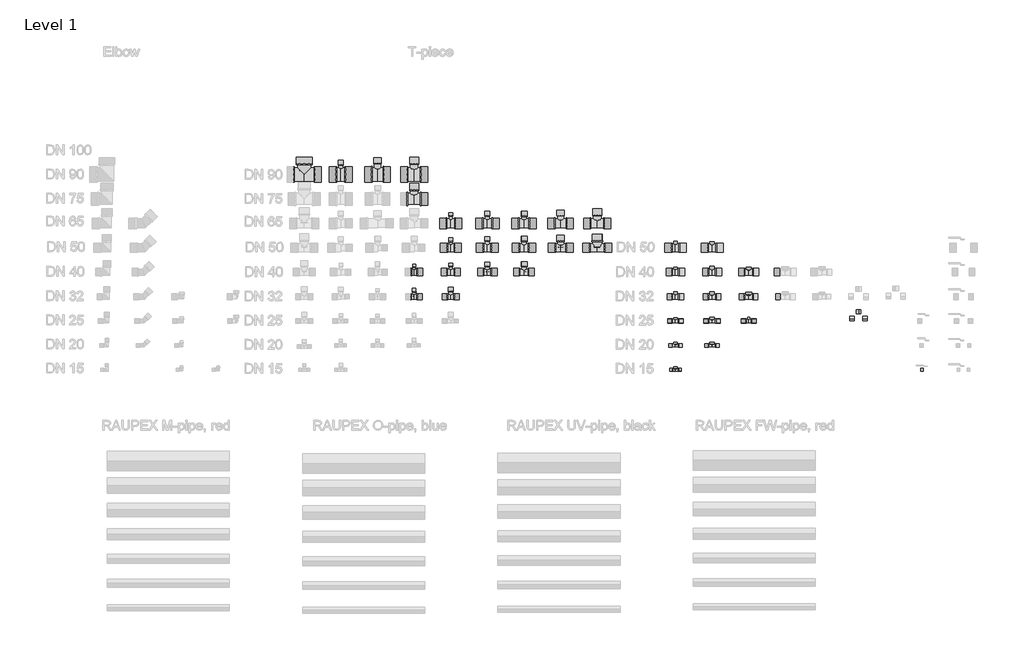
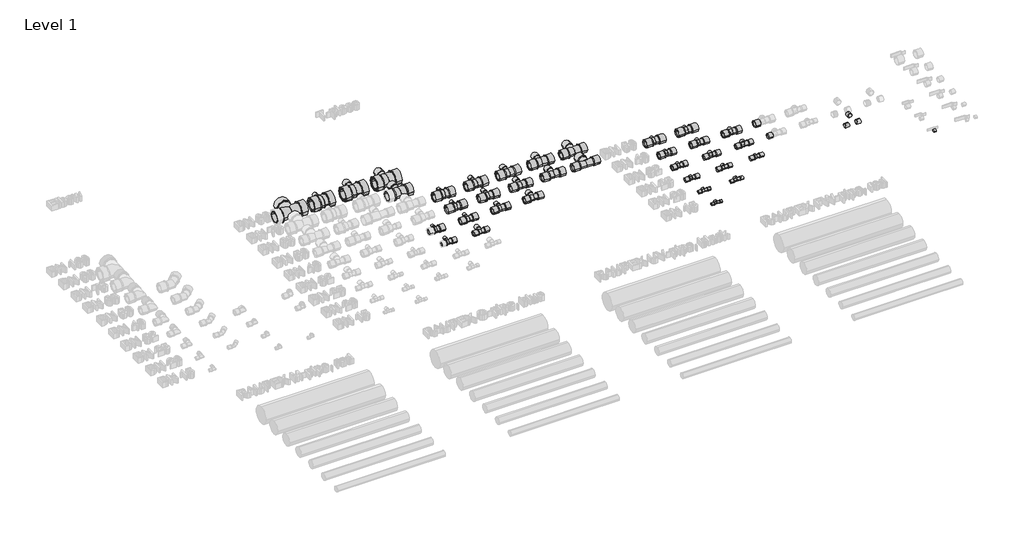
# One storey, part 5 of 15: 128 pipe fittings.
"""IFC4 building model written with IfcOpenShell, lengths in millimetres."""

from ifc_helpers import new_model, si_unit, origin, place, context, project, spatial, transform, mapped, element, save
from components import sleeve_lx_11_2e170aa1, sleeve_lx_11_3fcb8560, sleeve_lx_11_f19e3dbf, sleeve_lx_11_b9b419b6, sleeve_lx_11_e5eab1a7, sleeve_lx_11_ddfe2885, sleeve_lx_11_4a8bb2b2, sleeve_lx_11_a113959b, sleeve_lx_11_864eb6fe, sleeve_lx_11_c8be5d8f, sleeve_lx_11_6951dc15, sleeve_lx_11_77a95bf2, sleeve_rx_11_7b1edd19, sleeve_rx_11_d7843ee1, sleeve_rx_11_d7b6a074, t_piece_sdr11_lx_8dcbc21c, t_piece_sdr11_lx_149c8f26, t_piece_sdr11_lx_bd781c14, t_piece_sdr11_lx_aa92336d, t_piece_sdr11_lx_82b26c80, t_piece_sdr11_lx_b870d911, t_piece_sdr11_lx_8f242d45, t_piece_sdr11_lx_a8b36c13, t_piece_sdr11_lx_51ccf36a, t_piece_sdr11_lx_7730ed08, t_piece_sdr11_lx_t_piece_sdr11_rx_ce744061, t_piece_sdr11_lx_t_piece_sdr11_rx_5d5b0444, t_piece_sdr11_lx_t_piece_sdr11_rx_ea6c35c2, t_piece_sdr11_lx_t_piece_sdr11_rx_5838618a, t_piece_sdr11_lx_t_piece_sdr11_rx_05f4d052, t_piece_sdr11_lx_t_piece_sdr11_rx_636d46ae, t_piece_sdr11_lx_t_piece_sdr11_rx_10ffb44c, t_piece_sdr11_lx_t_piece_sdr11_rx_2cea22d0, t_piece_sdr11_lx_t_piece_sdr11_rx_bf9e8c16, t_piece_sdr11_lx_t_piece_sdr11_rx_f182f6ed, t_piece_sdr11_lx_t_piece_sdr11_rx_3943f51e, t_piece_sdr11_internal_thread_lx_8e1e4240, t_piece_sdr11_internal_thread_lx_d718ae2c, t_piece_sdr11_internal_thread_lx_568c0ff7, t_piece_sdr11_internal_thread_lx_c276f615, t_piece_sdr11_internal_thread_lx_835d7b5e, t_piece_sdr11_internal_thread_lx_253700b9, t_piece_sdr11_internal_thread_lx_99c0b33e, t_piece_sdr11_internal_thread_lx_c3680e9d, t_piece_sdr11_internal_thread_lx_bc42c6c6, t_piece_sdr11_internal_thread_lx_2177e229, t_piece_sdr11_internal_thread_lx_ff95d487, t_piece_sdr11_internal_thread_lx_0327bc4c, t_piece_sdr11_internal_thread_lx_a8ee94a1, t_piece_taper_sdr11_lx_t_piece_taper_sdr11_17872884

model = new_model("IFC4")

# Units and contexts
model_context = context("Model", 3, world=origin())
ifc_project = project(units=[si_unit("LENGTHUNIT", "METRE", prefix="MILLI")], contexts=[model_context])

# Site, building, storey
site = spatial("IfcSite", under=ifc_project)
building = spatial("IfcBuilding", under=site)
storey = spatial("IfcBuildingStorey", under=building, Name="Level 1", Elevation=0.0)

# Pipe fittings
placement = place(None, origin())
sleeve_lx_11_shape = sleeve_lx_11_2e170aa1(model_context)
element("IfcPipeFitting", 1, ObjectType="Sleeve : LX 11", at=placement, inside=storey, context=model_context, shape_type="MappedRepresentation", body=[
    mapped(sleeve_lx_11_shape, transform((19102.2141419, 840.5489138, 0.0), x_axis=(1.0, 0.0, 0.0), y_axis=(0.0, 1.0, 0.0), z_axis=(0.0, 0.0, 1.0))),
])
element("IfcPipeFitting", 2, ObjectType="Sleeve : LX 11", at=placement, inside=storey, context=model_context, shape_type="MappedRepresentation", body=[
    mapped(sleeve_lx_11_shape, transform((19398.9141419, 840.5489138, 0.0), x_axis=(1.0, 0.0, 0.0), y_axis=(0.0, 1.0, 0.0), z_axis=(0.0, 0.0, 1.0))),
])
element("IfcPipeFitting", 3, ObjectType="Sleeve : LX 11", at=placement, inside=storey, context=model_context, shape_type="MappedRepresentation", body=[
    mapped(sleeve_lx_11_shape, transform((17326.2141419, 1082.5489138, 0.0), x_axis=(0.0, 1.0, 0.0), y_axis=(-1.0, 0.0, 0.0), z_axis=(0.0, 0.0, 1.0))),
])
element("IfcPipeFitting", 4, ObjectType="Sleeve : LX 11", at=placement, inside=storey, context=model_context, shape_type="MappedRepresentation", body=[
    mapped(sleeve_lx_11_shape, transform((17626.2141419, 1287.3489138, 0.0), x_axis=(0.0, 1.0, 0.0), y_axis=(-1.0, 0.0, 0.0), z_axis=(0.0, 0.0, 1.0))),
])
element("IfcPipeFitting", 5, ObjectType="Sleeve : LX 11", at=placement, inside=storey, context=model_context, shape_type="MappedRepresentation", body=[
    mapped(sleeve_lx_11_shape, transform((17626.2141419, 1497.5489138, 0.0), x_axis=(0.0, 1.0, 0.0), y_axis=(-1.0, 0.0, 0.0), z_axis=(0.0, 0.0, 1.0))),
])
element("IfcPipeFitting", 6, ObjectType="Sleeve : LX 11", at=placement, inside=storey, context=model_context, shape_type="MappedRepresentation", body=[
    mapped(sleeve_lx_11_shape, transform((17626.2141419, 1703.3489138, 0.0), x_axis=(0.0, 1.0, 0.0), y_axis=(-1.0, 0.0, 0.0), z_axis=(0.0, 0.0, 1.0))),
])
element("IfcPipeFitting", 7, ObjectType="Sleeve : LX 11", at=placement, inside=storey, context=model_context, shape_type="MappedRepresentation", body=[
    mapped(sleeve_lx_11_shape, transform((16426.2141419, 2122.0489138, 0.0), x_axis=(0.0, 1.0, 0.0), y_axis=(-1.0, 0.0, 0.0), z_axis=(0.0, 0.0, 1.0))),
])
element("IfcPipeFitting", 8, ObjectType="Sleeve : LX 11", at=placement, inside=storey, context=model_context, shape_type="MappedRepresentation", body=[
    mapped(sleeve_lx_11_shape, transform((19705.2141419, 840.5489138, 0.0), x_axis=(1.0, 0.0, 0.0), y_axis=(0.0, 1.0, 0.0), z_axis=(0.0, 0.0, 1.0))),
])
element("IfcPipeFitting", 9, ObjectType="Sleeve : LX 11", at=placement, inside=storey, context=model_context, shape_type="MappedRepresentation", body=[
    mapped(sleeve_lx_11_shape, transform((19792.2141419, 840.5489138, 0.0), x_axis=(1.0, 0.0, 0.0), y_axis=(0.0, 1.0, 0.0), z_axis=(0.0, 0.0, 1.0))),
])
element("IfcPipeFitting", 10, ObjectType="Sleeve : LX 11", at=placement, inside=storey, context=model_context, shape_type="MappedRepresentation", body=[
    mapped(sleeve_lx_11_shape, transform((20595.1654108, 860.5489138, 0.0), x_axis=(1.0, 0.0, 0.0), y_axis=(0.0, 0.0, 1.0), z_axis=(0.0, -1.0, 0.0))),
])
element("IfcPipeFitting", 11, ObjectType="Sleeve : LX 11", at=placement, inside=storey, context=model_context, shape_type="MappedRepresentation", body=[
    mapped(sleeve_lx_11_shape, transform((20665.9654108, 933.5489138, 50.0), x_axis=(0.0, -1.0, 0.0), y_axis=(0.0, 0.0, -1.0), z_axis=(1.0, 0.0, 0.0))),
])
sleeve_lx_11_2_shape = sleeve_lx_11_3fcb8560(model_context)
element("IfcPipeFitting", 12, ObjectType="Sleeve : LX 11", at=placement, inside=storey, context=model_context, shape_type="MappedRepresentation", body=[
    mapped(sleeve_lx_11_2_shape, transform((21175.6274404, 440.5489138, 0.0), x_axis=(1.0, 0.0, 0.0), y_axis=(0.0, 1.0, 0.0), z_axis=(0.0, 0.0, 1.0))),
])
element("IfcPipeFitting", 13, ObjectType="Sleeve : LX 11", at=placement, inside=storey, context=model_context, shape_type="MappedRepresentation", body=[
    mapped(sleeve_lx_11_2_shape, transform((19118.2141419, 440.5489138, 0.0), x_axis=(1.0, 0.0, 0.0), y_axis=(0.0, 1.0, 0.0), z_axis=(0.0, 0.0, 1.0))),
])
element("IfcPipeFitting", 14, ObjectType="Sleeve : LX 11", at=placement, inside=storey, context=model_context, shape_type="MappedRepresentation", body=[
    mapped(sleeve_lx_11_2_shape, transform((17026.2141419, 1286.3489138, 0.0), x_axis=(0.0, 1.0, 0.0), y_axis=(-1.0, 0.0, 0.0), z_axis=(0.0, 0.0, 1.0))),
])
sleeve_lx_11_3_shape = sleeve_lx_11_f19e3dbf(model_context)
element("IfcPipeFitting", 15, ObjectType="Sleeve : LX 11", at=placement, inside=storey, context=model_context, shape_type="MappedRepresentation", body=[
    mapped(sleeve_lx_11_3_shape, transform((19111.2141419, 640.5489138, 0.0), x_axis=(1.0, 0.0, 0.0), y_axis=(0.0, 1.0, 0.0), z_axis=(0.0, 0.0, 1.0))),
])
element("IfcPipeFitting", 16, ObjectType="Sleeve : LX 11", at=placement, inside=storey, context=model_context, shape_type="MappedRepresentation", body=[
    mapped(sleeve_lx_11_3_shape, transform((19407.9141419, 640.5489138, 0.0), x_axis=(1.0, 0.0, 0.0), y_axis=(0.0, 1.0, 0.0), z_axis=(0.0, 0.0, 1.0))),
])
element("IfcPipeFitting", 17, ObjectType="Sleeve : LX 11", at=placement, inside=storey, context=model_context, shape_type="MappedRepresentation", body=[
    mapped(sleeve_lx_11_3_shape, transform((17026.2141419, 1081.0489138, 0.0), x_axis=(0.0, 1.0, 0.0), y_axis=(-1.0, 0.0, 0.0), z_axis=(0.0, 0.0, 1.0))),
])
element("IfcPipeFitting", 18, ObjectType="Sleeve : LX 11", at=placement, inside=storey, context=model_context, shape_type="MappedRepresentation", body=[
    mapped(sleeve_lx_11_3_shape, transform((17326.2141419, 1287.8489138, 0.0), x_axis=(0.0, 1.0, 0.0), y_axis=(-1.0, 0.0, 0.0), z_axis=(0.0, 0.0, 1.0))),
])
element("IfcPipeFitting", 19, ObjectType="Sleeve : LX 11", at=placement, inside=storey, context=model_context, shape_type="MappedRepresentation", body=[
    mapped(sleeve_lx_11_3_shape, transform((17326.2141419, 1493.7489138, 0.0), x_axis=(0.0, 1.0, 0.0), y_axis=(-1.0, 0.0, 0.0), z_axis=(0.0, 0.0, 1.0))),
])
element("IfcPipeFitting", 20, ObjectType="Sleeve : LX 11", at=placement, inside=storey, context=model_context, shape_type="MappedRepresentation", body=[
    mapped(sleeve_lx_11_3_shape, transform((17326.2141419, 1701.5489138, 0.0), x_axis=(0.0, 1.0, 0.0), y_axis=(-1.0, 0.0, 0.0), z_axis=(0.0, 0.0, 1.0))),
])
sleeve_lx_11_4_shape = sleeve_lx_11_b9b419b6(model_context)
element("IfcPipeFitting", 21, ObjectType="Sleeve : LX 11", at=placement, inside=storey, context=model_context, shape_type="MappedRepresentation", body=[
    mapped(sleeve_lx_11_4_shape, transform((19098.2141419, 1040.5489138, 0.0), x_axis=(1.0, 0.0, 0.0), y_axis=(0.0, 1.0, 0.0), z_axis=(0.0, 0.0, 1.0))),
])
element("IfcPipeFitting", 22, ObjectType="Sleeve : LX 11", at=placement, inside=storey, context=model_context, shape_type="MappedRepresentation", body=[
    mapped(sleeve_lx_11_4_shape, transform((19393.8141419, 1040.5489138, 0.0), x_axis=(1.0, 0.0, 0.0), y_axis=(0.0, 1.0, 0.0), z_axis=(0.0, 0.0, 1.0))),
])
element("IfcPipeFitting", 23, ObjectType="Sleeve : LX 11", at=placement, inside=storey, context=model_context, shape_type="MappedRepresentation", body=[
    mapped(sleeve_lx_11_4_shape, transform((19690.2141419, 1040.5489138, 0.0), x_axis=(1.0, 0.0, 0.0), y_axis=(0.0, 1.0, 0.0), z_axis=(0.0, 0.0, 1.0))),
])
element("IfcPipeFitting", 24, ObjectType="Sleeve : LX 11", at=placement, inside=storey, context=model_context, shape_type="MappedRepresentation", body=[
    mapped(sleeve_lx_11_4_shape, transform((19986.9141419, 1040.5489138, 0.0), x_axis=(1.0, 0.0, 0.0), y_axis=(0.0, 1.0, 0.0), z_axis=(0.0, 0.0, 1.0))),
])
element("IfcPipeFitting", 25, ObjectType="Sleeve : LX 11", at=placement, inside=storey, context=model_context, shape_type="MappedRepresentation", body=[
    mapped(sleeve_lx_11_4_shape, transform((17056.0141419, 1040.5489138, 0.0), x_axis=(1.0, 0.0, 0.0), y_axis=(0.0, 1.0, 0.0), z_axis=(0.0, 0.0, 1.0))),
])
element("IfcPipeFitting", 26, ObjectType="Sleeve : LX 11", at=placement, inside=storey, context=model_context, shape_type="MappedRepresentation", body=[
    mapped(sleeve_lx_11_4_shape, transform((17257.4141419, 1040.5489138, 0.0), x_axis=(1.0, 0.0, 0.0), y_axis=(0.0, 1.0, 0.0), z_axis=(0.0, 0.0, 1.0))),
])
element("IfcPipeFitting", 27, ObjectType="Sleeve : LX 11", at=placement, inside=storey, context=model_context, shape_type="MappedRepresentation", body=[
    mapped(sleeve_lx_11_4_shape, transform((17358.0141419, 1040.5489138, 0.0), x_axis=(1.0, 0.0, 0.0), y_axis=(0.0, 1.0, 0.0), z_axis=(0.0, 0.0, 1.0))),
])
element("IfcPipeFitting", 28, ObjectType="Sleeve : LX 11", at=placement, inside=storey, context=model_context, shape_type="MappedRepresentation", body=[
    mapped(sleeve_lx_11_4_shape, transform((17926.2141419, 1289.5489138, 0.0), x_axis=(0.0, 1.0, 0.0), y_axis=(-1.0, 0.0, 0.0), z_axis=(0.0, 0.0, 1.0))),
])
element("IfcPipeFitting", 29, ObjectType="Sleeve : LX 11", at=placement, inside=storey, context=model_context, shape_type="MappedRepresentation", body=[
    mapped(sleeve_lx_11_4_shape, transform((17926.2141419, 1497.0489138, 0.0), x_axis=(0.0, 1.0, 0.0), y_axis=(-1.0, 0.0, 0.0), z_axis=(0.0, 0.0, 1.0))),
])
element("IfcPipeFitting", 30, ObjectType="Sleeve : LX 11", at=placement, inside=storey, context=model_context, shape_type="MappedRepresentation", body=[
    mapped(sleeve_lx_11_4_shape, transform((17926.2141419, 1702.9489138, 0.0), x_axis=(0.0, 1.0, 0.0), y_axis=(-1.0, 0.0, 0.0), z_axis=(0.0, 0.0, 1.0))),
])
sleeve_lx_11_5_shape = sleeve_lx_11_e5eab1a7(model_context)
element("IfcPipeFitting", 31, ObjectType="Sleeve : LX 11", at=placement, inside=storey, context=model_context, shape_type="MappedRepresentation", body=[
    mapped(sleeve_lx_11_5_shape, transform((19091.2141419, 1240.5489138, 0.0), x_axis=(1.0, 0.0, 0.0), y_axis=(0.0, 1.0, 0.0), z_axis=(0.0, 0.0, 1.0))),
])
element("IfcPipeFitting", 32, ObjectType="Sleeve : LX 11", at=placement, inside=storey, context=model_context, shape_type="MappedRepresentation", body=[
    mapped(sleeve_lx_11_5_shape, transform((19387.9141419, 1240.5489138, 0.0), x_axis=(1.0, 0.0, 0.0), y_axis=(0.0, 1.0, 0.0), z_axis=(0.0, 0.0, 1.0))),
])
element("IfcPipeFitting", 33, ObjectType="Sleeve : LX 11", at=placement, inside=storey, context=model_context, shape_type="MappedRepresentation", body=[
    mapped(sleeve_lx_11_5_shape, transform((19684.4141419, 1240.5489138, 0.0), x_axis=(1.0, 0.0, 0.0), y_axis=(0.0, 1.0, 0.0), z_axis=(0.0, 0.0, 1.0))),
])
element("IfcPipeFitting", 34, ObjectType="Sleeve : LX 11", at=placement, inside=storey, context=model_context, shape_type="MappedRepresentation", body=[
    mapped(sleeve_lx_11_5_shape, transform((19976.7141419, 1240.5489138, 0.0), x_axis=(1.0, 0.0, 0.0), y_axis=(0.0, 1.0, 0.0), z_axis=(0.0, 0.0, 1.0))),
])
element("IfcPipeFitting", 35, ObjectType="Sleeve : LX 11", at=placement, inside=storey, context=model_context, shape_type="MappedRepresentation", body=[
    mapped(sleeve_lx_11_5_shape, transform((17054.0141419, 1240.5489138, 0.0), x_axis=(1.0, 0.0, 0.0), y_axis=(0.0, 1.0, 0.0), z_axis=(0.0, 0.0, 1.0))),
])
element("IfcPipeFitting", 36, ObjectType="Sleeve : LX 11", at=placement, inside=storey, context=model_context, shape_type="MappedRepresentation", body=[
    mapped(sleeve_lx_11_5_shape, transform((17248.8141419, 1240.5489138, 0.0), x_axis=(1.0, 0.0, 0.0), y_axis=(0.0, 1.0, 0.0), z_axis=(0.0, 0.0, 1.0))),
])
element("IfcPipeFitting", 37, ObjectType="Sleeve : LX 11", at=placement, inside=storey, context=model_context, shape_type="MappedRepresentation", body=[
    mapped(sleeve_lx_11_5_shape, transform((17359.6141419, 1240.5489138, 0.0), x_axis=(1.0, 0.0, 0.0), y_axis=(0.0, 1.0, 0.0), z_axis=(0.0, 0.0, 1.0))),
])
element("IfcPipeFitting", 38, ObjectType="Sleeve : LX 11", at=placement, inside=storey, context=model_context, shape_type="MappedRepresentation", body=[
    mapped(sleeve_lx_11_5_shape, transform((17547.0141419, 1240.5489138, 0.0), x_axis=(1.0, 0.0, 0.0), y_axis=(0.0, 1.0, 0.0), z_axis=(0.0, 0.0, 1.0))),
])
element("IfcPipeFitting", 39, ObjectType="Sleeve : LX 11", at=placement, inside=storey, context=model_context, shape_type="MappedRepresentation", body=[
    mapped(sleeve_lx_11_5_shape, transform((17661.4141419, 1240.5489138, 0.0), x_axis=(1.0, 0.0, 0.0), y_axis=(0.0, 1.0, 0.0), z_axis=(0.0, 0.0, 1.0))),
])
element("IfcPipeFitting", 40, ObjectType="Sleeve : LX 11", at=placement, inside=storey, context=model_context, shape_type="MappedRepresentation", body=[
    mapped(sleeve_lx_11_5_shape, transform((17842.4141419, 1240.5489138, 0.0), x_axis=(1.0, 0.0, 0.0), y_axis=(0.0, 1.0, 0.0), z_axis=(0.0, 0.0, 1.0))),
])
element("IfcPipeFitting", 41, ObjectType="Sleeve : LX 11", at=placement, inside=storey, context=model_context, shape_type="MappedRepresentation", body=[
    mapped(sleeve_lx_11_5_shape, transform((17966.0141419, 1240.5489138, 0.0), x_axis=(1.0, 0.0, 0.0), y_axis=(0.0, 1.0, 0.0), z_axis=(0.0, 0.0, 1.0))),
])
element("IfcPipeFitting", 42, ObjectType="Sleeve : LX 11", at=placement, inside=storey, context=model_context, shape_type="MappedRepresentation", body=[
    mapped(sleeve_lx_11_5_shape, transform((18226.2141419, 1497.0489138, 0.0), x_axis=(0.0, 1.0, 0.0), y_axis=(-1.0, 0.0, 0.0), z_axis=(0.0, 0.0, 1.0))),
])
element("IfcPipeFitting", 43, ObjectType="Sleeve : LX 11", at=placement, inside=storey, context=model_context, shape_type="MappedRepresentation", body=[
    mapped(sleeve_lx_11_5_shape, transform((18226.2141419, 1704.5489138, 0.0), x_axis=(0.0, 1.0, 0.0), y_axis=(-1.0, 0.0, 0.0), z_axis=(0.0, 0.0, 1.0))),
])
element("IfcPipeFitting", 44, ObjectType="Sleeve : LX 11", at=placement, inside=storey, context=model_context, shape_type="MappedRepresentation", body=[
    mapped(sleeve_lx_11_5_shape, transform((16726.2141419, 2134.0489138, 0.0), x_axis=(0.0, 1.0, 0.0), y_axis=(-1.0, 0.0, 0.0), z_axis=(0.0, 0.0, 1.0))),
])
sleeve_lx_11_6_shape = sleeve_lx_11_ddfe2885(model_context)
element("IfcPipeFitting", 45, ObjectType="Sleeve : LX 11", at=placement, inside=storey, context=model_context, shape_type="MappedRepresentation", body=[
    mapped(sleeve_lx_11_6_shape, transform((19078.7141419, 1440.5489138, 0.0), x_axis=(1.0, 0.0, 0.0), y_axis=(0.0, 1.0, 0.0), z_axis=(0.0, 0.0, 1.0))),
])
element("IfcPipeFitting", 46, ObjectType="Sleeve : LX 11", at=placement, inside=storey, context=model_context, shape_type="MappedRepresentation", body=[
    mapped(sleeve_lx_11_6_shape, transform((19376.4141419, 1440.5489138, 0.0), x_axis=(1.0, 0.0, 0.0), y_axis=(0.0, 1.0, 0.0), z_axis=(0.0, 0.0, 1.0))),
])
element("IfcPipeFitting", 47, ObjectType="Sleeve : LX 11", at=placement, inside=storey, context=model_context, shape_type="MappedRepresentation", body=[
    mapped(sleeve_lx_11_6_shape, transform((17238.9141419, 1440.5489138, 0.0), x_axis=(1.0, 0.0, 0.0), y_axis=(0.0, 1.0, 0.0), z_axis=(0.0, 0.0, 1.0))),
])
element("IfcPipeFitting", 48, ObjectType="Sleeve : LX 11", at=placement, inside=storey, context=model_context, shape_type="MappedRepresentation", body=[
    mapped(sleeve_lx_11_6_shape, transform((17360.5141419, 1440.5489138, 0.0), x_axis=(1.0, 0.0, 0.0), y_axis=(0.0, 1.0, 0.0), z_axis=(0.0, 0.0, 1.0))),
])
element("IfcPipeFitting", 49, ObjectType="Sleeve : LX 11", at=placement, inside=storey, context=model_context, shape_type="MappedRepresentation", body=[
    mapped(sleeve_lx_11_6_shape, transform((17536.4141419, 1440.5489138, 0.0), x_axis=(1.0, 0.0, 0.0), y_axis=(0.0, 1.0, 0.0), z_axis=(0.0, 0.0, 1.0))),
])
element("IfcPipeFitting", 50, ObjectType="Sleeve : LX 11", at=placement, inside=storey, context=model_context, shape_type="MappedRepresentation", body=[
    mapped(sleeve_lx_11_6_shape, transform((17663.0141419, 1440.5489138, 0.0), x_axis=(1.0, 0.0, 0.0), y_axis=(0.0, 1.0, 0.0), z_axis=(0.0, 0.0, 1.0))),
])
element("IfcPipeFitting", 51, ObjectType="Sleeve : LX 11", at=placement, inside=storey, context=model_context, shape_type="MappedRepresentation", body=[
    mapped(sleeve_lx_11_6_shape, transform((17829.9141419, 1440.5489138, 0.0), x_axis=(1.0, 0.0, 0.0), y_axis=(0.0, 1.0, 0.0), z_axis=(0.0, 0.0, 1.0))),
])
element("IfcPipeFitting", 52, ObjectType="Sleeve : LX 11", at=placement, inside=storey, context=model_context, shape_type="MappedRepresentation", body=[
    mapped(sleeve_lx_11_6_shape, transform((17969.5141419, 1440.5489138, 0.0), x_axis=(1.0, 0.0, 0.0), y_axis=(0.0, 1.0, 0.0), z_axis=(0.0, 0.0, 1.0))),
])
element("IfcPipeFitting", 53, ObjectType="Sleeve : LX 11", at=placement, inside=storey, context=model_context, shape_type="MappedRepresentation", body=[
    mapped(sleeve_lx_11_6_shape, transform((18123.9141419, 1440.5489138, 0.0), x_axis=(1.0, 0.0, 0.0), y_axis=(0.0, 1.0, 0.0), z_axis=(0.0, 0.0, 1.0))),
])
element("IfcPipeFitting", 54, ObjectType="Sleeve : LX 11", at=placement, inside=storey, context=model_context, shape_type="MappedRepresentation", body=[
    mapped(sleeve_lx_11_6_shape, transform((18275.5141419, 1440.5489138, 0.0), x_axis=(1.0, 0.0, 0.0), y_axis=(0.0, 1.0, 0.0), z_axis=(0.0, 0.0, 1.0))),
])
element("IfcPipeFitting", 55, ObjectType="Sleeve : LX 11", at=placement, inside=storey, context=model_context, shape_type="MappedRepresentation", body=[
    mapped(sleeve_lx_11_6_shape, transform((18526.2141419, 1707.0489138, 0.0), x_axis=(0.0, 1.0, 0.0), y_axis=(-1.0, 0.0, 0.0), z_axis=(0.0, 0.0, 1.0))),
])
element("IfcPipeFitting", 56, ObjectType="Sleeve : LX 11", at=placement, inside=storey, context=model_context, shape_type="MappedRepresentation", body=[
    mapped(sleeve_lx_11_6_shape, transform((17026.2141419, 1915.6489138, 0.0), x_axis=(0.0, 1.0, 0.0), y_axis=(-1.0, 0.0, 0.0), z_axis=(0.0, 0.0, 1.0))),
])
element("IfcPipeFitting", 57, ObjectType="Sleeve : LX 11", at=placement, inside=storey, context=model_context, shape_type="MappedRepresentation", body=[
    mapped(sleeve_lx_11_6_shape, transform((17026.2141419, 2126.6489138, 0.0), x_axis=(0.0, 1.0, 0.0), y_axis=(-1.0, 0.0, 0.0), z_axis=(0.0, 0.0, 1.0))),
])
element("IfcPipeFitting", 58, ObjectType="Sleeve : LX 11", at=placement, inside=storey, context=model_context, shape_type="MappedRepresentation", body=[
    mapped(sleeve_lx_11_6_shape, transform((18406.2141419, 1440.5489138, 0.0), x_axis=(1.0, 0.0, 0.0), y_axis=(0.0, 1.0, 0.0), z_axis=(0.0, 0.0, 1.0))),
])
element("IfcPipeFitting", 59, ObjectType="Sleeve : LX 11", at=placement, inside=storey, context=model_context, shape_type="MappedRepresentation", body=[
    mapped(sleeve_lx_11_6_shape, transform((18593.2141419, 1440.5489138, 0.0), x_axis=(1.0, 0.0, 0.0), y_axis=(0.0, 1.0, 0.0), z_axis=(0.0, 0.0, 1.0))),
])
sleeve_lx_11_7_shape = sleeve_lx_11_4a8bb2b2(model_context)
element("IfcPipeFitting", 60, ObjectType="Sleeve : LX 11", at=placement, inside=storey, context=model_context, shape_type="MappedRepresentation", body=[
    mapped(sleeve_lx_11_7_shape, transform((19230.2141419, 840.5489138, 0.0), x_axis=(-1.0, 0.0, 0.0), y_axis=(0.0, -1.0, 0.0), z_axis=(0.0, 0.0, 1.0))),
])
element("IfcPipeFitting", 61, ObjectType="Sleeve : LX 11", at=placement, inside=storey, context=model_context, shape_type="MappedRepresentation", body=[
    mapped(sleeve_lx_11_7_shape, transform((19533.5141419, 840.5489138, 0.0), x_axis=(-1.0, 0.0, 0.0), y_axis=(0.0, -1.0, 0.0), z_axis=(0.0, 0.0, 1.0))),
])
element("IfcPipeFitting", 62, ObjectType="Sleeve : LX 11", at=placement, inside=storey, context=model_context, shape_type="MappedRepresentation", body=[
    mapped(sleeve_lx_11_7_shape, transform((20736.7654108, 860.5489138, 0.0), x_axis=(-1.0, 0.0, 0.0), y_axis=(0.0, 0.0, -1.0), z_axis=(0.0, -1.0, 0.0))),
])
sleeve_lx_11_8_shape = sleeve_lx_11_a113959b(model_context)
element("IfcPipeFitting", 63, ObjectType="Sleeve : LX 11", at=placement, inside=storey, context=model_context, shape_type="MappedRepresentation", body=[
    mapped(sleeve_lx_11_8_shape, transform((19234.2141419, 1040.5489138, 0.0), x_axis=(-1.0, 0.0, 0.0), y_axis=(0.0, -1.0, 0.0), z_axis=(0.0, 0.0, 1.0))),
])
element("IfcPipeFitting", 64, ObjectType="Sleeve : LX 11", at=placement, inside=storey, context=model_context, shape_type="MappedRepresentation", body=[
    mapped(sleeve_lx_11_8_shape, transform((19538.6141419, 1040.5489138, 0.0), x_axis=(-1.0, 0.0, 0.0), y_axis=(0.0, -1.0, 0.0), z_axis=(0.0, 0.0, 1.0))),
])
element("IfcPipeFitting", 65, ObjectType="Sleeve : LX 11", at=placement, inside=storey, context=model_context, shape_type="MappedRepresentation", body=[
    mapped(sleeve_lx_11_8_shape, transform((19842.2141419, 1040.5489138, 0.0), x_axis=(-1.0, 0.0, 0.0), y_axis=(0.0, -1.0, 0.0), z_axis=(0.0, 0.0, 1.0))),
])
sleeve_lx_11_9_shape = sleeve_lx_11_864eb6fe(model_context)
element("IfcPipeFitting", 66, ObjectType="Sleeve : LX 11", at=placement, inside=storey, context=model_context, shape_type="MappedRepresentation", body=[
    mapped(sleeve_lx_11_9_shape, transform((19214.2141419, 440.5489138, 0.0), x_axis=(-1.0, 0.0, 0.0), y_axis=(0.0, -1.0, 0.0), z_axis=(0.0, 0.0, 1.0))),
])
sleeve_lx_11_10_shape = sleeve_lx_11_c8be5d8f(model_context)
element("IfcPipeFitting", 67, ObjectType="Sleeve : LX 11", at=placement, inside=storey, context=model_context, shape_type="MappedRepresentation", body=[
    mapped(sleeve_lx_11_10_shape, transform((19221.2141419, 640.5489138, 0.0), x_axis=(-1.0, 0.0, 0.0), y_axis=(0.0, -1.0, 0.0), z_axis=(0.0, 0.0, 1.0))),
])
element("IfcPipeFitting", 68, ObjectType="Sleeve : LX 11", at=placement, inside=storey, context=model_context, shape_type="MappedRepresentation", body=[
    mapped(sleeve_lx_11_10_shape, transform((19524.5141419, 640.5489138, 0.0), x_axis=(-1.0, 0.0, 0.0), y_axis=(0.0, -1.0, 0.0), z_axis=(0.0, 0.0, 1.0))),
])
sleeve_lx_11_11_shape = sleeve_lx_11_6951dc15(model_context)
element("IfcPipeFitting", 69, ObjectType="Sleeve : LX 11", at=placement, inside=storey, context=model_context, shape_type="MappedRepresentation", body=[
    mapped(sleeve_lx_11_11_shape, transform((19241.2141419, 1240.5489138, 0.0), x_axis=(-1.0, 0.0, 0.0), y_axis=(0.0, -1.0, 0.0), z_axis=(0.0, 0.0, 1.0))),
])
element("IfcPipeFitting", 70, ObjectType="Sleeve : LX 11", at=placement, inside=storey, context=model_context, shape_type="MappedRepresentation", body=[
    mapped(sleeve_lx_11_11_shape, transform((19544.5141419, 1240.5489138, 0.0), x_axis=(-1.0, 0.0, 0.0), y_axis=(0.0, -1.0, 0.0), z_axis=(0.0, 0.0, 1.0))),
])
element("IfcPipeFitting", 71, ObjectType="Sleeve : LX 11", at=placement, inside=storey, context=model_context, shape_type="MappedRepresentation", body=[
    mapped(sleeve_lx_11_11_shape, transform((19848.0141419, 1240.5489138, 0.0), x_axis=(-1.0, 0.0, 0.0), y_axis=(0.0, -1.0, 0.0), z_axis=(0.0, 0.0, 1.0))),
])
sleeve_lx_11_12_shape = sleeve_lx_11_77a95bf2(model_context)
element("IfcPipeFitting", 72, ObjectType="Sleeve : LX 11", at=placement, inside=storey, context=model_context, shape_type="MappedRepresentation", body=[
    mapped(sleeve_lx_11_12_shape, transform((19253.7141419, 1440.5489138, 0.0), x_axis=(-1.0, 0.0, 0.0), y_axis=(0.0, -1.0, 0.0), z_axis=(0.0, 0.0, 1.0))),
])
element("IfcPipeFitting", 73, ObjectType="Sleeve : LX 11", at=placement, inside=storey, context=model_context, shape_type="MappedRepresentation", body=[
    mapped(sleeve_lx_11_12_shape, transform((19556.0141419, 1440.5489138, 0.0), x_axis=(-1.0, 0.0, 0.0), y_axis=(0.0, -1.0, 0.0), z_axis=(0.0, 0.0, 1.0))),
])
sleeve_rx_11_shape = sleeve_rx_11_7b1edd19(model_context)
element("IfcPipeFitting", 74, ObjectType="Sleeve : RX 11", at=placement, inside=storey, context=model_context, shape_type="MappedRepresentation", body=[
    mapped(sleeve_rx_11_shape, transform((17085.0141419, 1840.5489138, 0.0), x_axis=(1.0, 0.0, 0.0), y_axis=(0.0, 1.0, 0.0), z_axis=(0.0, 0.0, 1.0))),
])
sleeve_rx_11_2_shape = sleeve_rx_11_d7843ee1(model_context)
element("IfcPipeFitting", 75, ObjectType="Sleeve : RX 11", at=placement, inside=storey, context=model_context, shape_type="MappedRepresentation", body=[
    mapped(sleeve_rx_11_2_shape, transform((16126.2141419, 2126.8489138, 0.0), x_axis=(0.0, 1.0, 0.0), y_axis=(-1.0, 0.0, 0.0), z_axis=(0.0, 0.0, 1.0))),
])
element("IfcPipeFitting", 76, ObjectType="Sleeve : RX 11", at=placement, inside=storey, context=model_context, shape_type="MappedRepresentation", body=[
    mapped(sleeve_rx_11_2_shape, transform((16213.4141419, 2040.5489138, 0.0), x_axis=(1.0, 0.0, 0.0), y_axis=(0.0, 1.0, 0.0), z_axis=(0.0, 0.0, 1.0))),
])
element("IfcPipeFitting", 77, ObjectType="Sleeve : RX 11", at=placement, inside=storey, context=model_context, shape_type="MappedRepresentation", body=[
    mapped(sleeve_rx_11_2_shape, transform((16332.1141419, 2040.5489138, 0.0), x_axis=(1.0, 0.0, 0.0), y_axis=(0.0, 1.0, 0.0), z_axis=(0.0, 0.0, 1.0))),
])
element("IfcPipeFitting", 78, ObjectType="Sleeve : RX 11", at=placement, inside=storey, context=model_context, shape_type="MappedRepresentation", body=[
    mapped(sleeve_rx_11_2_shape, transform((16467.3141419, 2040.5489138, 0.0), x_axis=(1.0, 0.0, 0.0), y_axis=(0.0, 1.0, 0.0), z_axis=(0.0, 0.0, 1.0))),
])
element("IfcPipeFitting", 79, ObjectType="Sleeve : RX 11", at=placement, inside=storey, context=model_context, shape_type="MappedRepresentation", body=[
    mapped(sleeve_rx_11_2_shape, transform((16621.8141419, 2040.5489138, 0.0), x_axis=(1.0, 0.0, 0.0), y_axis=(0.0, 1.0, 0.0), z_axis=(0.0, 0.0, 1.0))),
])
element("IfcPipeFitting", 80, ObjectType="Sleeve : RX 11", at=placement, inside=storey, context=model_context, shape_type="MappedRepresentation", body=[
    mapped(sleeve_rx_11_2_shape, transform((16777.6141419, 2040.5489138, 0.0), x_axis=(1.0, 0.0, 0.0), y_axis=(0.0, 1.0, 0.0), z_axis=(0.0, 0.0, 1.0))),
])
element("IfcPipeFitting", 81, ObjectType="Sleeve : RX 11", at=placement, inside=storey, context=model_context, shape_type="MappedRepresentation", body=[
    mapped(sleeve_rx_11_2_shape, transform((16915.1141419, 2040.5489138, 0.0), x_axis=(1.0, 0.0, 0.0), y_axis=(0.0, 1.0, 0.0), z_axis=(0.0, 0.0, 1.0))),
])
element("IfcPipeFitting", 82, ObjectType="Sleeve : RX 11", at=placement, inside=storey, context=model_context, shape_type="MappedRepresentation", body=[
    mapped(sleeve_rx_11_2_shape, transform((17084.3141419, 2040.5489138, 0.0), x_axis=(1.0, 0.0, 0.0), y_axis=(0.0, 1.0, 0.0), z_axis=(0.0, 0.0, 1.0))),
])
sleeve_rx_11_3_shape = sleeve_rx_11_d7b6a074(model_context)
element("IfcPipeFitting", 83, ObjectType="Sleeve : RX 11", at=placement, inside=storey, context=model_context, shape_type="MappedRepresentation", body=[
    mapped(sleeve_rx_11_3_shape, transform((17236.1141419, 1640.5489138, 0.0), x_axis=(1.0, 0.0, 0.0), y_axis=(0.0, 1.0, 0.0), z_axis=(0.0, 0.0, 1.0))),
])
element("IfcPipeFitting", 84, ObjectType="Sleeve : RX 11", at=placement, inside=storey, context=model_context, shape_type="MappedRepresentation", body=[
    mapped(sleeve_rx_11_3_shape, transform((17363.3141419, 1640.5489138, 0.0), x_axis=(1.0, 0.0, 0.0), y_axis=(0.0, 1.0, 0.0), z_axis=(0.0, 0.0, 1.0))),
])
element("IfcPipeFitting", 85, ObjectType="Sleeve : RX 11", at=placement, inside=storey, context=model_context, shape_type="MappedRepresentation", body=[
    mapped(sleeve_rx_11_3_shape, transform((17531.2141419, 1640.5489138, 0.0), x_axis=(1.0, 0.0, 0.0), y_axis=(0.0, 1.0, 0.0), z_axis=(0.0, 0.0, 1.0))),
])
element("IfcPipeFitting", 86, ObjectType="Sleeve : RX 11", at=placement, inside=storey, context=model_context, shape_type="MappedRepresentation", body=[
    mapped(sleeve_rx_11_3_shape, transform((17668.2141419, 1640.5489138, 0.0), x_axis=(1.0, 0.0, 0.0), y_axis=(0.0, 1.0, 0.0), z_axis=(0.0, 0.0, 1.0))),
])
element("IfcPipeFitting", 87, ObjectType="Sleeve : RX 11", at=placement, inside=storey, context=model_context, shape_type="MappedRepresentation", body=[
    mapped(sleeve_rx_11_3_shape, transform((17827.2141419, 1640.5489138, 0.0), x_axis=(1.0, 0.0, 0.0), y_axis=(0.0, 1.0, 0.0), z_axis=(0.0, 0.0, 1.0))),
])
element("IfcPipeFitting", 88, ObjectType="Sleeve : RX 11", at=placement, inside=storey, context=model_context, shape_type="MappedRepresentation", body=[
    mapped(sleeve_rx_11_3_shape, transform((17972.2141419, 1640.5489138, 0.0), x_axis=(1.0, 0.0, 0.0), y_axis=(0.0, 1.0, 0.0), z_axis=(0.0, 0.0, 1.0))),
])
element("IfcPipeFitting", 89, ObjectType="Sleeve : RX 11", at=placement, inside=storey, context=model_context, shape_type="MappedRepresentation", body=[
    mapped(sleeve_rx_11_3_shape, transform((18121.5141419, 1640.5489138, 0.0), x_axis=(1.0, 0.0, 0.0), y_axis=(0.0, 1.0, 0.0), z_axis=(0.0, 0.0, 1.0))),
])
element("IfcPipeFitting", 90, ObjectType="Sleeve : RX 11", at=placement, inside=storey, context=model_context, shape_type="MappedRepresentation", body=[
    mapped(sleeve_rx_11_3_shape, transform((18277.9141419, 1640.5489138, 0.0), x_axis=(1.0, 0.0, 0.0), y_axis=(0.0, 1.0, 0.0), z_axis=(0.0, 0.0, 1.0))),
])
element("IfcPipeFitting", 91, ObjectType="Sleeve : RX 11", at=placement, inside=storey, context=model_context, shape_type="MappedRepresentation", body=[
    mapped(sleeve_rx_11_3_shape, transform((18414.3141419, 1640.5489138, 0.0), x_axis=(1.0, 0.0, 0.0), y_axis=(0.0, 1.0, 0.0), z_axis=(0.0, 0.0, 1.0))),
])
element("IfcPipeFitting", 92, ObjectType="Sleeve : RX 11", at=placement, inside=storey, context=model_context, shape_type="MappedRepresentation", body=[
    mapped(sleeve_rx_11_3_shape, transform((18585.1141419, 1640.5489138, 0.0), x_axis=(1.0, 0.0, 0.0), y_axis=(0.0, 1.0, 0.0), z_axis=(0.0, 0.0, 1.0))),
])
element("IfcPipeFitting", 93, ObjectType="Sleeve : RX 11", at=placement, inside=storey, context=model_context, shape_type="MappedRepresentation", body=[
    mapped(sleeve_rx_11_3_shape, transform((18526.2141419, 1496.7489138, 0.0), x_axis=(0.0, 1.0, 0.0), y_axis=(-1.0, 0.0, 0.0), z_axis=(0.0, 0.0, 1.0))),
])
t_piece_sdr11_lx_shape = t_piece_sdr11_lx_8dcbc21c(model_context)
element("IfcPipeFitting", 94, ObjectType="T-piece SDR11 LX : T-piece LX SDR11 LX", at=placement, inside=storey, context=model_context, shape_type="MappedRepresentation", body=[
    mapped(t_piece_sdr11_lx_shape, transform((17026.2141419, 1040.5489138, 0.0), x_axis=(1.0, 0.0, 0.0), y_axis=(0.0, 1.0, 0.0), z_axis=(0.0, 0.0, 1.0))),
])
t_piece_sdr11_lx_2_shape = t_piece_sdr11_lx_149c8f26(model_context)
element("IfcPipeFitting", 95, ObjectType="T-piece SDR11 LX : T-piece LX SDR11 LX", at=placement, inside=storey, context=model_context, shape_type="MappedRepresentation", body=[
    mapped(t_piece_sdr11_lx_2_shape, transform((17326.2141419, 1040.5489138, 0.0), x_axis=(1.0, 0.0, 0.0), y_axis=(0.0, 1.0, 0.0), z_axis=(0.0, 0.0, 1.0))),
])
t_piece_sdr11_lx_3_shape = t_piece_sdr11_lx_bd781c14(model_context)
element("IfcPipeFitting", 96, ObjectType="T-piece SDR11 LX : T-piece LX SDR11 LX", at=placement, inside=storey, context=model_context, shape_type="MappedRepresentation", body=[
    mapped(t_piece_sdr11_lx_3_shape, transform((17026.2141419, 1240.5489138, 0.0), x_axis=(1.0, 0.0, 0.0), y_axis=(0.0, 1.0, 0.0), z_axis=(0.0, 0.0, 1.0))),
])
t_piece_sdr11_lx_4_shape = t_piece_sdr11_lx_aa92336d(model_context)
element("IfcPipeFitting", 97, ObjectType="T-piece SDR11 LX : T-piece LX SDR11 LX", at=placement, inside=storey, context=model_context, shape_type="MappedRepresentation", body=[
    mapped(t_piece_sdr11_lx_4_shape, transform((17326.2141419, 1240.5489138, 0.0), x_axis=(1.0, 0.0, 0.0), y_axis=(0.0, 1.0, 0.0), z_axis=(0.0, 0.0, 1.0))),
])
t_piece_sdr11_lx_5_shape = t_piece_sdr11_lx_82b26c80(model_context)
element("IfcPipeFitting", 98, ObjectType="T-piece SDR11 LX : T-piece LX SDR11 LX", at=placement, inside=storey, context=model_context, shape_type="MappedRepresentation", body=[
    mapped(t_piece_sdr11_lx_5_shape, transform((17626.2141419, 1240.5489138, 0.0), x_axis=(1.0, 0.0, 0.0), y_axis=(0.0, 1.0, 0.0), z_axis=(0.0, 0.0, 1.0))),
])
t_piece_sdr11_lx_6_shape = t_piece_sdr11_lx_b870d911(model_context)
element("IfcPipeFitting", 99, ObjectType="T-piece SDR11 LX : T-piece LX SDR11 LX", at=placement, inside=storey, context=model_context, shape_type="MappedRepresentation", body=[
    mapped(t_piece_sdr11_lx_6_shape, transform((17926.2141419, 1240.5489138, 0.0), x_axis=(1.0, 0.0, 0.0), y_axis=(0.0, 1.0, 0.0), z_axis=(0.0, 0.0, 1.0))),
])
t_piece_sdr11_lx_7_shape = t_piece_sdr11_lx_8f242d45(model_context)
element("IfcPipeFitting", 100, ObjectType="T-piece SDR11 LX : T-piece LX SDR11 LX", at=placement, inside=storey, context=model_context, shape_type="MappedRepresentation", body=[
    mapped(t_piece_sdr11_lx_7_shape, transform((17326.2141419, 1440.5489138, 0.0), x_axis=(1.0, 0.0, 0.0), y_axis=(0.0, 1.0, 0.0), z_axis=(0.0, 0.0, 1.0))),
])
t_piece_sdr11_lx_8_shape = t_piece_sdr11_lx_a8b36c13(model_context)
element("IfcPipeFitting", 101, ObjectType="T-piece SDR11 LX : T-piece LX SDR11 LX", at=placement, inside=storey, context=model_context, shape_type="MappedRepresentation", body=[
    mapped(t_piece_sdr11_lx_8_shape, transform((17626.2141419, 1440.5489138, 0.0), x_axis=(1.0, 0.0, 0.0), y_axis=(0.0, 1.0, 0.0), z_axis=(0.0, 0.0, 1.0))),
])
t_piece_sdr11_lx_9_shape = t_piece_sdr11_lx_51ccf36a(model_context)
element("IfcPipeFitting", 102, ObjectType="T-piece SDR11 LX : T-piece LX SDR11 LX", at=placement, inside=storey, context=model_context, shape_type="MappedRepresentation", body=[
    mapped(t_piece_sdr11_lx_9_shape, transform((17926.2141419, 1440.5489138, 0.0), x_axis=(1.0, 0.0, 0.0), y_axis=(0.0, 1.0, 0.0), z_axis=(0.0, 0.0, 1.0))),
])
t_piece_sdr11_lx_10_shape = t_piece_sdr11_lx_7730ed08(model_context)
element("IfcPipeFitting", 103, ObjectType="T-piece SDR11 LX : T-piece LX SDR11 LX", at=placement, inside=storey, context=model_context, shape_type="MappedRepresentation", body=[
    mapped(t_piece_sdr11_lx_10_shape, transform((18226.2141419, 1440.5489138, 0.0), x_axis=(1.0, 0.0, 0.0), y_axis=(0.0, 1.0, 0.0), z_axis=(0.0, 0.0, 1.0))),
])
t_piece_sdr11_lx_t_piece_sdr11_rx_shape = t_piece_sdr11_lx_t_piece_sdr11_rx_ce744061(model_context)
element("IfcPipeFitting", 104, ObjectType="T-piece SDR11 LX : T-piece SDR11 RX", at=placement, inside=storey, context=model_context, shape_type="MappedRepresentation", body=[
    mapped(t_piece_sdr11_lx_t_piece_sdr11_rx_shape, transform((16126.2141419, 2040.5489138, 0.0), x_axis=(1.0, 0.0, 0.0), y_axis=(0.0, 1.0, 0.0), z_axis=(0.0, 0.0, 1.0))),
])
t_piece_sdr11_lx_t_piece_sdr11_rx_2_shape = t_piece_sdr11_lx_t_piece_sdr11_rx_5d5b0444(model_context)
element("IfcPipeFitting", 105, ObjectType="T-piece SDR11 LX : T-piece SDR11 RX", at=placement, inside=storey, context=model_context, shape_type="MappedRepresentation", body=[
    mapped(t_piece_sdr11_lx_t_piece_sdr11_rx_2_shape, transform((17326.2141419, 1640.5489138, 0.0), x_axis=(1.0, 0.0, 0.0), y_axis=(0.0, 1.0, 0.0), z_axis=(0.0, 0.0, 1.0))),
])
t_piece_sdr11_lx_t_piece_sdr11_rx_3_shape = t_piece_sdr11_lx_t_piece_sdr11_rx_ea6c35c2(model_context)
element("IfcPipeFitting", 106, ObjectType="T-piece SDR11 LX : T-piece SDR11 RX", at=placement, inside=storey, context=model_context, shape_type="MappedRepresentation", body=[
    mapped(t_piece_sdr11_lx_t_piece_sdr11_rx_3_shape, transform((17626.2141419, 1640.5489138, 0.0), x_axis=(1.0, 0.0, 0.0), y_axis=(0.0, 1.0, 0.0), z_axis=(0.0, 0.0, 1.0))),
])
t_piece_sdr11_lx_t_piece_sdr11_rx_4_shape = t_piece_sdr11_lx_t_piece_sdr11_rx_5838618a(model_context)
element("IfcPipeFitting", 107, ObjectType="T-piece SDR11 LX : T-piece SDR11 RX", at=placement, inside=storey, context=model_context, shape_type="MappedRepresentation", body=[
    mapped(t_piece_sdr11_lx_t_piece_sdr11_rx_4_shape, transform((17926.2141419, 1640.5489138, 0.0), x_axis=(1.0, 0.0, 0.0), y_axis=(0.0, 1.0, 0.0), z_axis=(0.0, 0.0, 1.0))),
])
t_piece_sdr11_lx_t_piece_sdr11_rx_5_shape = t_piece_sdr11_lx_t_piece_sdr11_rx_05f4d052(model_context)
element("IfcPipeFitting", 108, ObjectType="T-piece SDR11 LX : T-piece SDR11 RX", at=placement, inside=storey, context=model_context, shape_type="MappedRepresentation", body=[
    mapped(t_piece_sdr11_lx_t_piece_sdr11_rx_5_shape, transform((18226.2141419, 1640.5489138, 0.0), x_axis=(1.0, 0.0, 0.0), y_axis=(0.0, 1.0, 0.0), z_axis=(0.0, 0.0, 1.0))),
])
t_piece_sdr11_lx_t_piece_sdr11_rx_6_shape = t_piece_sdr11_lx_t_piece_sdr11_rx_636d46ae(model_context)
element("IfcPipeFitting", 109, ObjectType="T-piece SDR11 LX : T-piece SDR11 RX", at=placement, inside=storey, context=model_context, shape_type="MappedRepresentation", body=[
    mapped(t_piece_sdr11_lx_t_piece_sdr11_rx_6_shape, transform((18526.2141419, 1640.5489138, 0.0), x_axis=(1.0, 0.0, 0.0), y_axis=(0.0, 1.0, 0.0), z_axis=(0.0, 0.0, 1.0))),
])
t_piece_sdr11_lx_t_piece_sdr11_rx_7_shape = t_piece_sdr11_lx_t_piece_sdr11_rx_10ffb44c(model_context)
element("IfcPipeFitting", 110, ObjectType="T-piece SDR11 LX : T-piece SDR11 RX", at=placement, inside=storey, context=model_context, shape_type="MappedRepresentation", body=[
    mapped(t_piece_sdr11_lx_t_piece_sdr11_rx_7_shape, transform((17026.2141419, 1840.5489138, 0.0), x_axis=(1.0, 0.0, 0.0), y_axis=(0.0, 1.0, 0.0), z_axis=(0.0, 0.0, 1.0))),
])
t_piece_sdr11_lx_t_piece_sdr11_rx_8_shape = t_piece_sdr11_lx_t_piece_sdr11_rx_2cea22d0(model_context)
element("IfcPipeFitting", 111, ObjectType="T-piece SDR11 LX : T-piece SDR11 RX", at=placement, inside=storey, context=model_context, shape_type="MappedRepresentation", body=[
    mapped(t_piece_sdr11_lx_t_piece_sdr11_rx_8_shape, transform((16426.2141419, 2040.5489138, 0.0), x_axis=(1.0, 0.0, 0.0), y_axis=(0.0, 1.0, 0.0), z_axis=(0.0, 0.0, 1.0))),
])
t_piece_sdr11_lx_t_piece_sdr11_rx_9_shape = t_piece_sdr11_lx_t_piece_sdr11_rx_bf9e8c16(model_context)
element("IfcPipeFitting", 112, ObjectType="T-piece SDR11 LX : T-piece SDR11 RX", at=placement, inside=storey, context=model_context, shape_type="MappedRepresentation", body=[
    mapped(t_piece_sdr11_lx_t_piece_sdr11_rx_9_shape, transform((16726.2141419, 2040.5489138, 0.0), x_axis=(1.0, 0.0, 0.0), y_axis=(0.0, 1.0, 0.0), z_axis=(0.0, 0.0, 1.0))),
])
t_piece_sdr11_lx_t_piece_sdr11_rx_10_shape = t_piece_sdr11_lx_t_piece_sdr11_rx_f182f6ed(model_context)
element("IfcPipeFitting", 113, ObjectType="T-piece SDR11 LX : T-piece SDR11 RX", at=placement, inside=storey, context=model_context, shape_type="MappedRepresentation", body=[
    mapped(t_piece_sdr11_lx_t_piece_sdr11_rx_10_shape, transform((17026.2141419, 2040.5489138, 0.0), x_axis=(1.0, 0.0, 0.0), y_axis=(0.0, 1.0, 0.0), z_axis=(0.0, 0.0, 1.0))),
])
t_piece_sdr11_lx_t_piece_sdr11_rx_11_shape = t_piece_sdr11_lx_t_piece_sdr11_rx_3943f51e(model_context)
element("IfcPipeFitting", 114, ObjectType="T-piece SDR11 LX : T-piece SDR11 RX", at=placement, inside=storey, context=model_context, shape_type="MappedRepresentation", body=[
    mapped(t_piece_sdr11_lx_t_piece_sdr11_rx_11_shape, transform((18526.2141419, 1440.5489138, 0.0), x_axis=(1.0, 0.0, 0.0), y_axis=(0.0, 1.0, 0.0), z_axis=(0.0, 0.0, 1.0))),
])
t_piece_sdr11_internal_thread_lx_shape = t_piece_sdr11_internal_thread_lx_8e1e4240(model_context)
element("IfcPipeFitting", 115, ObjectType="T-piece SDR11 internal thread LX : T-piece LX SDR11 internal LX", at=placement, inside=storey, context=model_context, shape_type="MappedRepresentation", body=[
    mapped(t_piece_sdr11_internal_thread_lx_shape, transform((19166.2141419, 440.5489138, 0.0), x_axis=(1.0, 0.0, 0.0), y_axis=(0.0, 1.0, 0.0), z_axis=(0.0, 0.0, 1.0))),
])
t_piece_sdr11_internal_thread_lx_2_shape = t_piece_sdr11_internal_thread_lx_d718ae2c(model_context)
element("IfcPipeFitting", 116, ObjectType="T-piece SDR11 internal thread LX : T-piece LX SDR11 internal LX", at=placement, inside=storey, context=model_context, shape_type="MappedRepresentation", body=[
    mapped(t_piece_sdr11_internal_thread_lx_2_shape, transform((19166.2141419, 640.5489138, 0.0), x_axis=(1.0, 0.0, 0.0), y_axis=(0.0, 1.0, 0.0), z_axis=(0.0, 0.0, 1.0))),
])
t_piece_sdr11_internal_thread_lx_3_shape = t_piece_sdr11_internal_thread_lx_568c0ff7(model_context)
element("IfcPipeFitting", 117, ObjectType="T-piece SDR11 internal thread LX : T-piece LX SDR11 internal LX", at=placement, inside=storey, context=model_context, shape_type="MappedRepresentation", body=[
    mapped(t_piece_sdr11_internal_thread_lx_3_shape, transform((19466.2141419, 640.5489138, 0.0), x_axis=(1.0, 0.0, 0.0), y_axis=(0.0, 1.0, 0.0), z_axis=(0.0, 0.0, 1.0))),
])
t_piece_sdr11_internal_thread_lx_4_shape = t_piece_sdr11_internal_thread_lx_c276f615(model_context)
element("IfcPipeFitting", 118, ObjectType="T-piece SDR11 internal thread LX : T-piece LX SDR11 internal LX", at=placement, inside=storey, context=model_context, shape_type="MappedRepresentation", body=[
    mapped(t_piece_sdr11_internal_thread_lx_4_shape, transform((19166.2141419, 840.5489138, 0.0), x_axis=(1.0, 0.0, 0.0), y_axis=(0.0, 1.0, 0.0), z_axis=(0.0, 0.0, 1.0))),
])
t_piece_sdr11_internal_thread_lx_5_shape = t_piece_sdr11_internal_thread_lx_835d7b5e(model_context)
element("IfcPipeFitting", 119, ObjectType="T-piece SDR11 internal thread LX : T-piece LX SDR11 internal LX", at=placement, inside=storey, context=model_context, shape_type="MappedRepresentation", body=[
    mapped(t_piece_sdr11_internal_thread_lx_5_shape, transform((19466.2141419, 840.5489138, 0.0), x_axis=(1.0, 0.0, 0.0), y_axis=(0.0, 1.0, 0.0), z_axis=(0.0, 0.0, 1.0))),
])
t_piece_sdr11_internal_thread_lx_6_shape = t_piece_sdr11_internal_thread_lx_253700b9(model_context)
element("IfcPipeFitting", 120, ObjectType="T-piece SDR11 internal thread LX : T-piece LX SDR11 internal LX", at=placement, inside=storey, context=model_context, shape_type="MappedRepresentation", body=[
    mapped(t_piece_sdr11_internal_thread_lx_6_shape, transform((19166.2141419, 1040.5489138, 0.0), x_axis=(1.0, 0.0, 0.0), y_axis=(0.0, 1.0, 0.0), z_axis=(0.0, 0.0, 1.0))),
])
t_piece_sdr11_internal_thread_lx_7_shape = t_piece_sdr11_internal_thread_lx_99c0b33e(model_context)
element("IfcPipeFitting", 121, ObjectType="T-piece SDR11 internal thread LX : T-piece LX SDR11 internal LX", at=placement, inside=storey, context=model_context, shape_type="MappedRepresentation", body=[
    mapped(t_piece_sdr11_internal_thread_lx_7_shape, transform((19466.2141419, 1040.5489138, 0.0), x_axis=(1.0, 0.0, 0.0), y_axis=(0.0, 1.0, 0.0), z_axis=(0.0, 0.0, 1.0))),
])
t_piece_sdr11_internal_thread_lx_8_shape = t_piece_sdr11_internal_thread_lx_c3680e9d(model_context)
element("IfcPipeFitting", 122, ObjectType="T-piece SDR11 internal thread LX : T-piece LX SDR11 internal LX", at=placement, inside=storey, context=model_context, shape_type="MappedRepresentation", body=[
    mapped(t_piece_sdr11_internal_thread_lx_8_shape, transform((19766.2141419, 1040.5489138, 0.0), x_axis=(1.0, 0.0, 0.0), y_axis=(0.0, 1.0, 0.0), z_axis=(0.0, 0.0, 1.0))),
])
t_piece_sdr11_internal_thread_lx_9_shape = t_piece_sdr11_internal_thread_lx_bc42c6c6(model_context)
element("IfcPipeFitting", 123, ObjectType="T-piece SDR11 internal thread LX : T-piece LX SDR11 internal LX", at=placement, inside=storey, context=model_context, shape_type="MappedRepresentation", body=[
    mapped(t_piece_sdr11_internal_thread_lx_9_shape, transform((19166.2141419, 1240.5489138, 0.0), x_axis=(1.0, 0.0, 0.0), y_axis=(0.0, 1.0, 0.0), z_axis=(0.0, 0.0, 1.0))),
])
t_piece_sdr11_internal_thread_lx_10_shape = t_piece_sdr11_internal_thread_lx_2177e229(model_context)
element("IfcPipeFitting", 124, ObjectType="T-piece SDR11 internal thread LX : T-piece LX SDR11 internal LX", at=placement, inside=storey, context=model_context, shape_type="MappedRepresentation", body=[
    mapped(t_piece_sdr11_internal_thread_lx_10_shape, transform((19466.2141419, 1240.5489138, 0.0), x_axis=(1.0, 0.0, 0.0), y_axis=(0.0, 1.0, 0.0), z_axis=(0.0, 0.0, 1.0))),
])
t_piece_sdr11_internal_thread_lx_11_shape = t_piece_sdr11_internal_thread_lx_ff95d487(model_context)
element("IfcPipeFitting", 125, ObjectType="T-piece SDR11 internal thread LX : T-piece LX SDR11 internal LX", at=placement, inside=storey, context=model_context, shape_type="MappedRepresentation", body=[
    mapped(t_piece_sdr11_internal_thread_lx_11_shape, transform((19766.2141419, 1240.5489138, 0.0), x_axis=(1.0, 0.0, 0.0), y_axis=(0.0, 1.0, 0.0), z_axis=(0.0, 0.0, 1.0))),
])
t_piece_sdr11_internal_thread_lx_12_shape = t_piece_sdr11_internal_thread_lx_0327bc4c(model_context)
element("IfcPipeFitting", 126, ObjectType="T-piece SDR11 internal thread LX : T-piece LX SDR11 internal LX", at=placement, inside=storey, context=model_context, shape_type="MappedRepresentation", body=[
    mapped(t_piece_sdr11_internal_thread_lx_12_shape, transform((19166.2141419, 1440.5489138, 0.0), x_axis=(1.0, 0.0, 0.0), y_axis=(0.0, 1.0, 0.0), z_axis=(0.0, 0.0, 1.0))),
])
t_piece_sdr11_internal_thread_lx_13_shape = t_piece_sdr11_internal_thread_lx_a8ee94a1(model_context)
element("IfcPipeFitting", 127, ObjectType="T-piece SDR11 internal thread LX : T-piece LX SDR11 internal LX", at=placement, inside=storey, context=model_context, shape_type="MappedRepresentation", body=[
    mapped(t_piece_sdr11_internal_thread_lx_13_shape, transform((19466.2141419, 1440.5489138, 0.0), x_axis=(1.0, 0.0, 0.0), y_axis=(0.0, 1.0, 0.0), z_axis=(0.0, 0.0, 1.0))),
])
t_piece_taper_sdr11_lx_t_piece_taper_sdr11_shape = t_piece_taper_sdr11_lx_t_piece_taper_sdr11_17872884(model_context)
element("IfcPipeFitting", 128, ObjectType="T-piece taper SDR11 LX : T-piece taper SDR11", at=placement, inside=storey, context=model_context, shape_type="MappedRepresentation", body=[
    mapped(t_piece_taper_sdr11_lx_t_piece_taper_sdr11_shape, transform((19766.2141419, 840.5489138, 0.0), x_axis=(1.0, 0.0, 0.0), y_axis=(0.0, 1.0, 0.0), z_axis=(0.0, 0.0, 1.0))),
])

save(model, "model.ifc")
